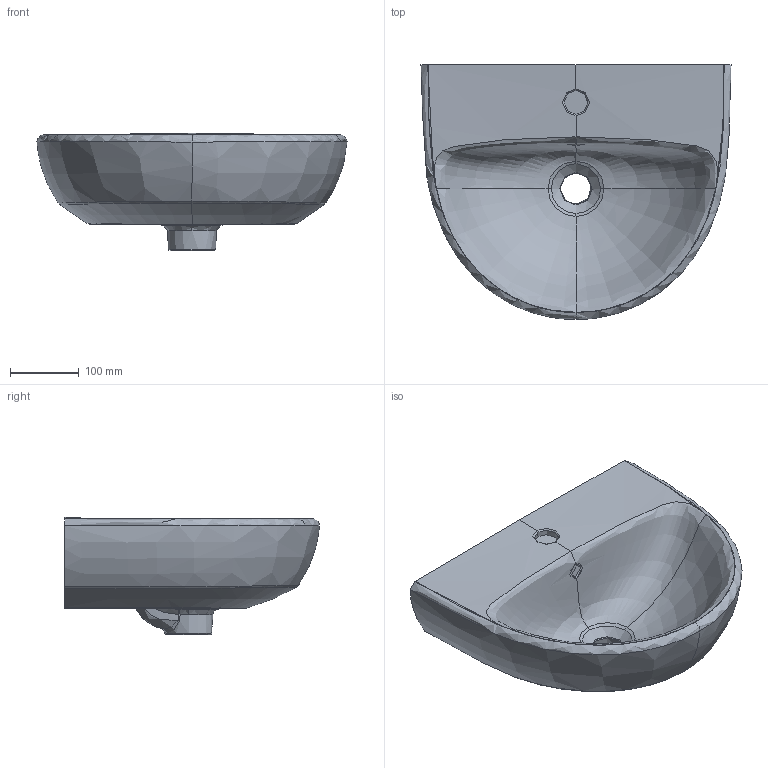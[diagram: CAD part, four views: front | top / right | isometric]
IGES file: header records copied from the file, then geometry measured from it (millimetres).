
Global section: file name: 500324; native system: Autodesk Inventor 2018; preprocessor: unknown; author: seihe2; date: 20200527.084415; units: millimetre
Bounding box: 450 x 370 x 170 mm (x, y, z)
Volume: 10547164.1 mm3; surface area: 471866.7 mm2
Topology: 1 solids, 1 shells, 77 faces, 212 edges, 137 vertices
Faces by surface type: bspline 77
